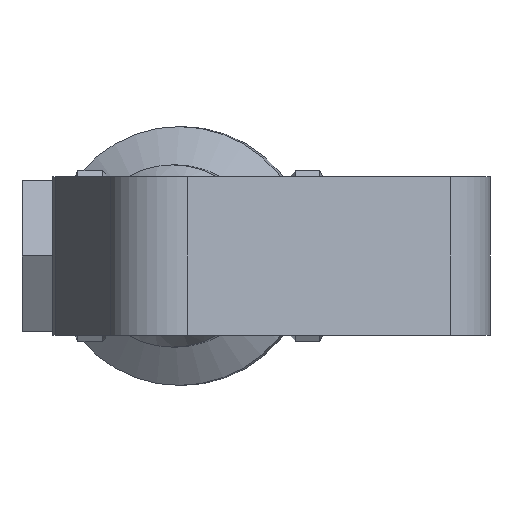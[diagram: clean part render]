
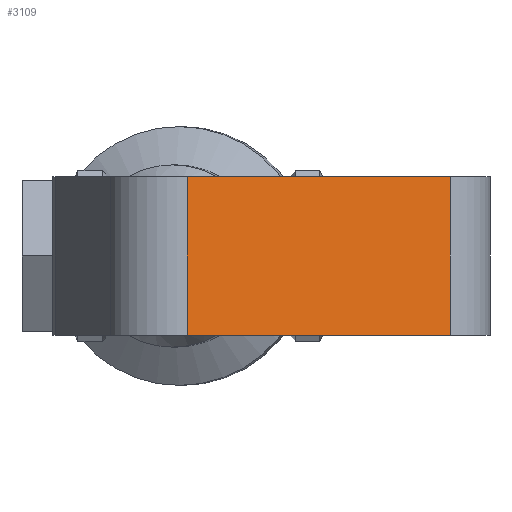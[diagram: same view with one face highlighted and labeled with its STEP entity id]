
A CAD part, front view. The second image highlights one B-rep face of the part: STEP entity #3109.
In plain terms, the highlighted planar face has unit normal (0.342, -0.94, 0).
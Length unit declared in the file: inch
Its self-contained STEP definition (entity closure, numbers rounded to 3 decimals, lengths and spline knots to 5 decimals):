
#110=PLANE('',#3438);
#245=FACE_OUTER_BOUND('',#427,.T.);
#427=EDGE_LOOP('',(#2167,#2168,#2169,#2170));
#619=LINE('',#5056,#865);
#626=LINE('',#5091,#872);
#627=LINE('',#5094,#873);
#628=LINE('',#5095,#874);
#865=VECTOR('',#3896,0.3937);
#872=VECTOR('',#3935,0.3937);
#873=VECTOR('',#3938,0.3937);
#874=VECTOR('',#3939,0.3937);
#1328=VERTEX_POINT('',#5053);
#1329=VERTEX_POINT('',#5055);
#1341=VERTEX_POINT('',#5089);
#1342=VERTEX_POINT('',#5093);
#1647=EDGE_CURVE('',#1328,#1329,#619,.T.);
#1664=EDGE_CURVE('',#1341,#1328,#626,.T.);
#1665=EDGE_CURVE('',#1342,#1341,#627,.T.);
#1666=EDGE_CURVE('',#1342,#1329,#628,.T.);
#2167=ORIENTED_EDGE('',*,*,#1664,.F.);
#2168=ORIENTED_EDGE('',*,*,#1665,.F.);
#2169=ORIENTED_EDGE('',*,*,#1666,.T.);
#2170=ORIENTED_EDGE('',*,*,#1647,.F.);
#3109=ADVANCED_FACE('',(#245),#110,.T.);
#3438=AXIS2_PLACEMENT_3D('',#5092,#3936,#3937);
#3896=DIRECTION('',(-0.94,-0.342,0.));
#3935=DIRECTION('',(0.,0.,-1.));
#3936=DIRECTION('center_axis',(0.342,-0.94,0.));
#3937=DIRECTION('ref_axis',(0.94,0.342,0.));
#3938=DIRECTION('',(0.94,0.342,0.));
#3939=DIRECTION('',(0.,0.,-1.));
#5053=CARTESIAN_POINT('',(2.06739,-4.36272,-0.65));
#5055=CARTESIAN_POINT('',(-0.09522,-5.14985,-0.65));
#5056=CARTESIAN_POINT('',(2.06739,-4.36272,-0.65));
#5089=CARTESIAN_POINT('',(2.06739,-4.36272,0.65));
#5091=CARTESIAN_POINT('',(2.06739,-4.36272,0.));
#5092=CARTESIAN_POINT('Origin',(-0.09522,-5.14985,0.));
#5093=CARTESIAN_POINT('',(-0.09522,-5.14985,0.65));
#5094=CARTESIAN_POINT('',(2.06739,-4.36272,0.65));
#5095=CARTESIAN_POINT('',(-0.09522,-5.14985,0.));
